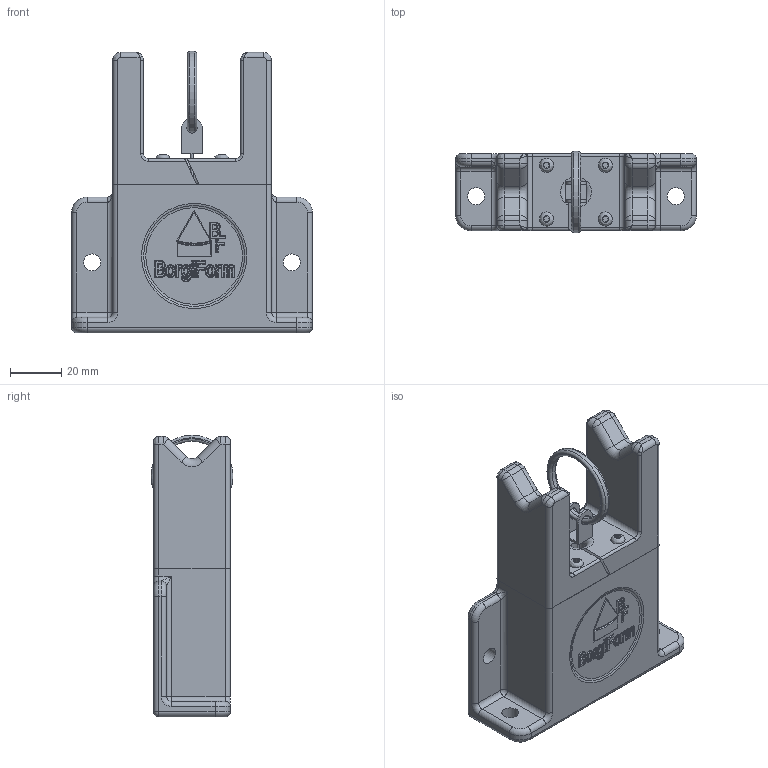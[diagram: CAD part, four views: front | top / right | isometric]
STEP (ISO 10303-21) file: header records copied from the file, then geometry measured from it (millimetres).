
FILE_DESCRIPTION(('STEP AP214'),'1');
FILE_NAME('aph_step.stp','2021-01-24T12:07:53',(' '),(' '),'Spatial InterOp 3D',' ',' ');
FILE_SCHEMA(('automotive_design'));
Length unit declared in the file: metre
Products named in the file (10): 1; 2; 3; 4; 5; 6; 7; 8; 9; 10
Bounding box: 94 x 32 x 110 mm (x, y, z)
Volume: 150398.1 mm3; surface area: 49512.2 mm2
Topology: 10 solids, 10 shells, 801 faces, 2108 edges, 1356 vertices
Faces by surface type: bspline 286, cylinder 252, plane 186, torus 45, cone 20, sphere 12
Full cylindrical faces by diameter (mm): 1 x1, 2 x4, 3 x4, 3.2 x4, 4 x2, 6.6 x4, 27.2 x1, 32 x1, 54 x1
Entity records: 53156 total; most frequent: CARTESIAN_POINT 29128, ORIENTED_EDGE 3992, DIRECTION 3089, EDGE_CURVE 1996, VERTEX_POINT 1330, AXIS2_PLACEMENT_3D 1220, EDGE_LOOP 934, FACE_OUTER_BOUND 845
